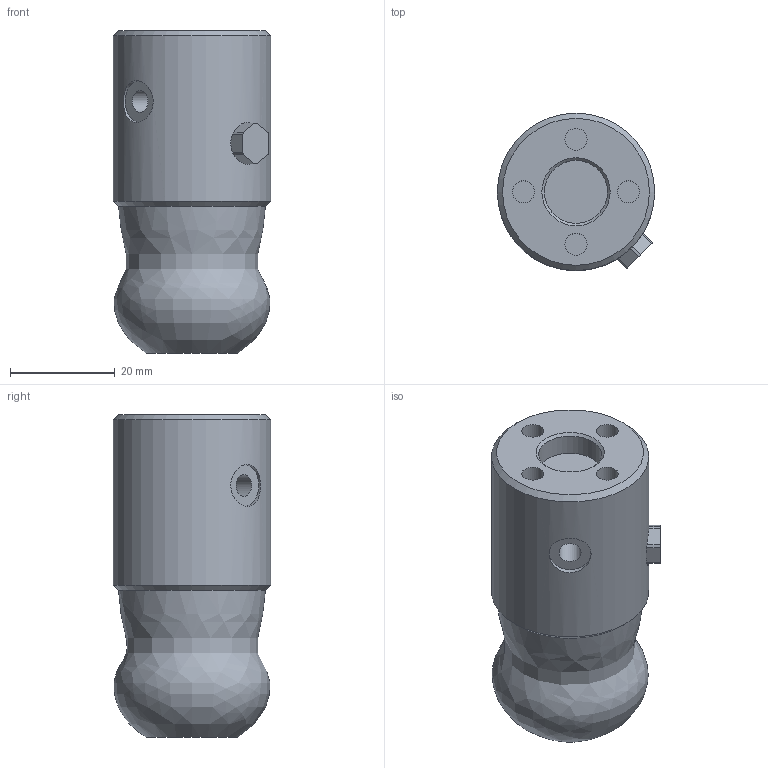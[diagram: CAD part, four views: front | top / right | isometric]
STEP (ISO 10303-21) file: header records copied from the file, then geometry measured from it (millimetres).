
FILE_DESCRIPTION(('STEP AP203'),'1');
FILE_NAME(').stp','2020-04-09T07:49:30',(' '),(' '),'Spatial InterOp 3D',' ',' ');
FILE_SCHEMA(('CONFIG_CONTROL_DESIGN'));
Length unit declared in the file: millimetre
Products named in the file (4): SGB-10; パーツ1; パーツ2; パーツ3
Assembly tree (3 placements, depth 2):
  SGB-10
    パーツ1
    パーツ2
    パーツ3
Bounding box: 30 x 30 x 61.5 mm (x, y, z)
Volume: 36789.5 mm3; surface area: 8818 mm2
Topology: 3 solids, 3 shells, 65 faces, 123 edges, 77 vertices
Faces by surface type: cylinder 25, plane 25, cone 13, bspline 1, torus 1
Full cylindrical faces by diameter (mm): 3 x1, 3.8 x1, 4.2 x6, 5 x1, 8 x2, 9.5 x2, 10 x1, 12 x1, 14.385 x3, 30 x1
Entity records: 1824 total; most frequent: CARTESIAN_POINT 417, DIRECTION 280, ORIENTED_EDGE 172, AXIS2_PLACEMENT_3D 128, EDGE_LOOP 114, FACE_OUTER_BOUND 86, EDGE_CURVE 86, VERTEX_POINT 74
